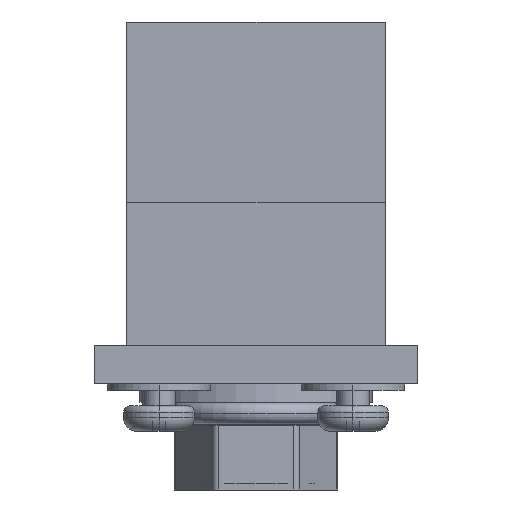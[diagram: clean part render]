
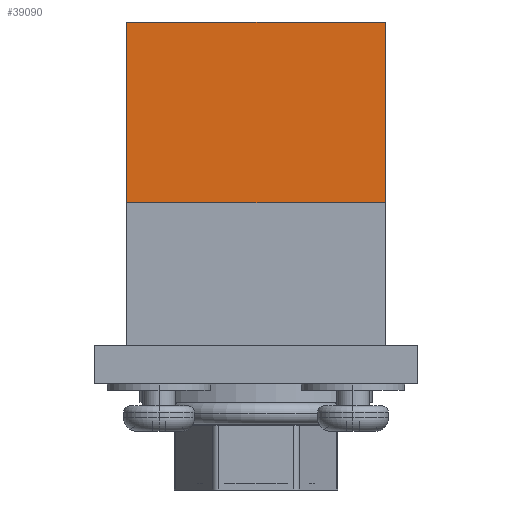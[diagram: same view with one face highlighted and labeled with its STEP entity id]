
A CAD part, left-side view. The second image highlights one B-rep face of the part: STEP entity #39090.
In plain terms, the highlighted planar face has unit normal (-1, 0, 0).
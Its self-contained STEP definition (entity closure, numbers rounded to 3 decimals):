
#37560=CARTESIAN_POINT('',(-27.488,66.46,28.));
#37570=VERTEX_POINT('',#37560);
#37600=CARTESIAN_POINT('',(-27.488,66.46,28.));
#37610=DIRECTION('',(0.,0.,-1.));
#37620=VECTOR('',#37610,1.);
#37630=LINE('',#37600,#37620);
#37640=CARTESIAN_POINT('',(-27.488,66.46,14.));
#37650=VERTEX_POINT('',#37640);
#37660=EDGE_CURVE('',#37570,#37650,#37630,.T.);
#38430=CARTESIAN_POINT('',(-27.488,46.46,28.));
#38440=VERTEX_POINT('',#38430);
#38470=CARTESIAN_POINT('',(-27.488,46.46,28.));
#38480=DIRECTION('',(0.,1.,0.));
#38490=VECTOR('',#38480,1.);
#38500=LINE('',#38470,#38490);
#38510=EDGE_CURVE('',#38440,#37570,#38500,.T.);
#38860=CARTESIAN_POINT('',(-27.488,66.46,28.));
#38870=DIRECTION('',(1.,0.,0.));
#38880=DIRECTION('',(0.,0.,1.));
#38890=AXIS2_PLACEMENT_3D('',#38860,#38870,#38880);
#38900=PLANE('',#38890);
#38910=ORIENTED_EDGE('',*,*,#37660,.T.);
#38920=ORIENTED_EDGE('',*,*,#38510,.T.);
#38930=CARTESIAN_POINT('',(-27.488,46.46,28.));
#38940=DIRECTION('',(0.,0.,-1.));
#38950=VECTOR('',#38940,1.);
#38960=LINE('',#38930,#38950);
#38970=CARTESIAN_POINT('',(-27.488,46.46,14.));
#38980=VERTEX_POINT('',#38970);
#38990=EDGE_CURVE('',#38440,#38980,#38960,.T.);
#39000=ORIENTED_EDGE('',*,*,#38990,.F.);
#39010=CARTESIAN_POINT('',(-27.488,46.46,14.));
#39020=DIRECTION('',(0.,1.,0.));
#39030=VECTOR('',#39020,1.);
#39040=LINE('',#39010,#39030);
#39050=EDGE_CURVE('',#38980,#37650,#39040,.T.);
#39060=ORIENTED_EDGE('',*,*,#39050,.F.);
#39070=EDGE_LOOP('',(#39060,#39000,#38920,#38910));
#39080=FACE_OUTER_BOUND('',#39070,.T.);
#39090=ADVANCED_FACE('',(#39080),#38900,.F.);
